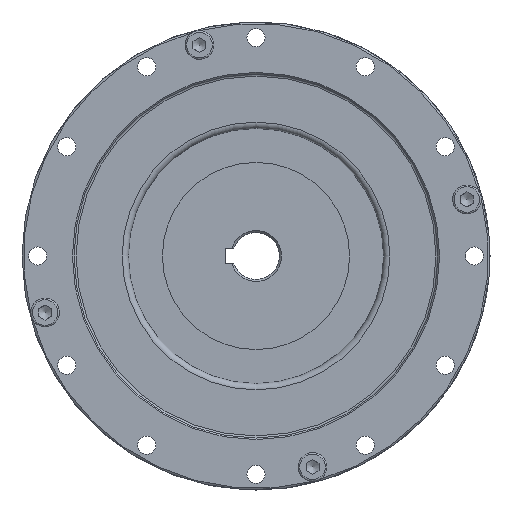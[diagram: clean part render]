
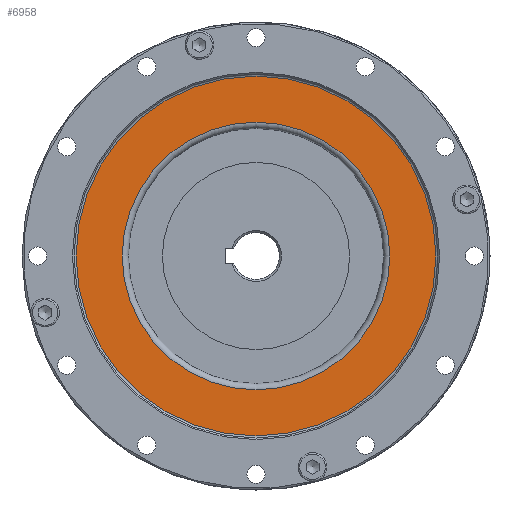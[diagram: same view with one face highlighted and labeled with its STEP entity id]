
A CAD part, left-side view. The second image highlights one B-rep face of the part: STEP entity #6958.
In plain terms, the highlighted planar face has unit normal (-1, 0, 0).
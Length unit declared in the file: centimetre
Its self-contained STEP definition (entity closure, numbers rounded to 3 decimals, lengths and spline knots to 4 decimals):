
#971=FACE_BOUND('',#2037,.T.);
#1407=FACE_OUTER_BOUND('',#2036,.T.);
#2036=EDGE_LOOP('',(#5684));
#2037=EDGE_LOOP('',(#5685));
#2337=CIRCLE('',#7241,2.5735);
#2695=CIRCLE('',#7962,3.46);
#2874=VERTEX_POINT('',#10716);
#3244=VERTEX_POINT('',#12057);
#3509=EDGE_CURVE('',#2874,#2874,#2337,.T.);
#4061=EDGE_CURVE('',#3244,#3244,#2695,.T.);
#5684=ORIENTED_EDGE('',*,*,#4061,.F.);
#5685=ORIENTED_EDGE('',*,*,#3509,.T.);
#6079=PLANE('',#7963);
#6958=ADVANCED_FACE('',(#1407,#971),#6079,.T.);
#7241=AXIS2_PLACEMENT_3D('',#10717,#8495,#8496);
#7962=AXIS2_PLACEMENT_3D('',#12058,#10103,#10104);
#7963=AXIS2_PLACEMENT_3D('',#12059,#10105,#10106);
#8495=DIRECTION('center_axis',(1.,0.,0.));
#8496=DIRECTION('ref_axis',(0.,0.,-1.));
#10103=DIRECTION('center_axis',(1.,0.,0.));
#10104=DIRECTION('ref_axis',(0.,1.,0.));
#10105=DIRECTION('center_axis',(-1.,0.,0.));
#10106=DIRECTION('ref_axis',(0.,-1.,0.));
#10716=CARTESIAN_POINT('',(-0.0284,2.5735,0.));
#10717=CARTESIAN_POINT('Origin',(-0.0284,0.,0.));
#12057=CARTESIAN_POINT('',(-0.0284,3.46,0.));
#12058=CARTESIAN_POINT('Origin',(-0.0284,0.,
0.));
#12059=CARTESIAN_POINT('Origin',(-0.0284,3.033,0.));
